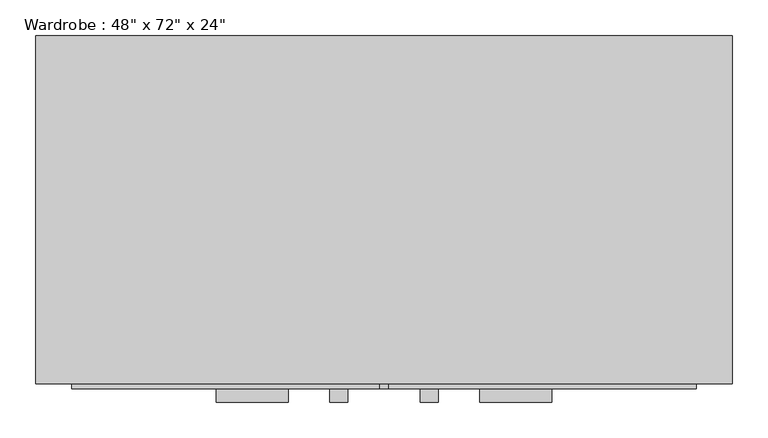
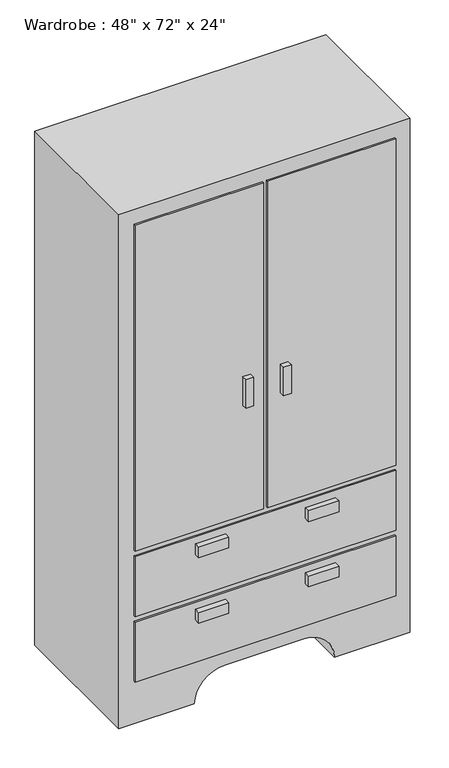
"""IFC4 building model written with IfcOpenShell, lengths in millimetres: furniture geometry."""

from ifc_helpers import new_model, si_unit, point, frame, frame_2d, origin, place, context, project, spatial, polyline, circle_curve, trimmed, segment, composite_curve, outline, extrude, source, transform, mapped, element, save


def furniture_dc80c863(model_context):
    return source(origin(), model_context, "Body", "SweptSolid", [
        extrude(outline(composite_curve([segment(polyline([(0.0, 220.8067402), (1828.8, 220.8067402), (1828.8, -759.1932598), (0.0, -759.1932598), (0.0, -505.1932598)]), True, "CONTINUOUS"), segment(trimmed(circle_curve(frame_2d((0.0, -403.5932598)), 101.6), [point((0.0, -505.1932598))], [point((101.6, -403.5932598))], True, "CARTESIAN"), True, "CONTINUOUS"), segment(polyline([(101.6, -403.5932598), (101.6, -134.7932598)]), True, "CONTINUOUS"), segment(trimmed(circle_curve(frame_2d((0.0, -134.7932598)), 101.6), [point((101.6, -134.7932598))], [point((0.0, -33.1932598))], True, "CARTESIAN"), True, "CONTINUOUS"), segment(polyline([(0.0, -33.1932598), (0.0, 220.8067402)]), True, "CONTINUOUS")], self_intersect=False)), frame((0.0, -828.7388096, 0.0), z_axis=(0.0, 1.0, 0.0), x_axis=(0.0, 0.0, 1.0)), (0.0, 0.0, 1.0), 490.0),
        extrude(outline(polyline([(-319.9932598, -854.1388096), (-345.3932598, -854.1388096), (-345.3932598, -835.0888096), (-319.9932598, -835.0888096), (-319.9932598, -854.1388096)])), frame((0.0, 0.0, 1010.5571429), z_axis=(0.0, 0.0, 1.0), x_axis=(1.0, 0.0, 0.0)), (0.0, 0.0, 1.0), 101.6),
        extrude(outline(polyline([(-192.9932598, -854.1388096), (-218.3932598, -854.1388096), (-218.3932598, -835.0888096), (-192.9932598, -835.0888096), (-192.9932598, -854.1388096)])), frame((0.0, 0.0, 1010.5571429), z_axis=(0.0, 0.0, 1.0), x_axis=(1.0, 0.0, 0.0)), (0.0, 0.0, 1.0), 101.6),
        extrude(outline(polyline([(-403.5932598, -854.1388096), (-505.1932598, -854.1388096), (-505.1932598, -835.0888096), (-403.5932598, -835.0888096), (-403.5932598, -854.1388096)])), frame((0.0, 0.0, 534.3071429), z_axis=(0.0, 0.0, 1.0), x_axis=(1.0, 0.0, 0.0)), (0.0, 0.0, 1.0), 38.1),
        extrude(outline(polyline([(-33.1932598, -854.1388096), (-134.7932598, -854.1388096), (-134.7932598, -835.0888096), (-33.1932598, -835.0888096), (-33.1932598, -854.1388096)])), frame((0.0, 0.0, 534.3071429), z_axis=(0.0, 0.0, 1.0), x_axis=(1.0, 0.0, 0.0)), (0.0, 0.0, 1.0), 38.1),
        extrude(outline(polyline([(-33.1932598, -854.1388096), (-134.7932598, -854.1388096), (-134.7932598, -835.0888096), (-33.1932598, -835.0888096), (-33.1932598, -854.1388096)])), frame((0.0, 0.0, 302.0785714), z_axis=(0.0, 0.0, 1.0), x_axis=(1.0, 0.0, 0.0)), (0.0, 0.0, 1.0), 38.1),
        extrude(outline(polyline([(-403.5932598, -854.1388096), (-505.1932598, -854.1388096), (-505.1932598, -835.0888096), (-403.5932598, -835.0888096), (-403.5932598, -854.1388096)])), frame((0.0, 0.0, 302.0785714), z_axis=(0.0, 0.0, 1.0), x_axis=(1.0, 0.0, 0.0)), (0.0, 0.0, 1.0), 38.1),
        extrude(outline(polyline([(170.0067402, -835.0888096), (-708.3932598, -835.0888096), (-708.3932598, -828.7388096), (170.0067402, -828.7388096), (170.0067402, -835.0888096)])), frame((0.0, 0.0, 384.6285714), z_axis=(0.0, 0.0, 1.0), x_axis=(1.0, 0.0, 0.0)), (0.0, 0.0, 1.0), 213.1785714),
        extrude(outline(polyline([(170.0067402, -835.0888096), (-708.3932598, -835.0888096), (-708.3932598, -828.7388096), (170.0067402, -828.7388096), (170.0067402, -835.0888096)])), frame((0.0, 0.0, 152.4), z_axis=(0.0, 0.0, 1.0), x_axis=(1.0, 0.0, 0.0)), (0.0, 0.0, 1.0), 213.1785714),
        extrude(outline(polyline([(-275.5432598, -835.0888096), (-708.3932598, -835.0888096), (-708.3932598, -828.7388096), (-275.5432598, -828.7388096), (-275.5432598, -835.0888096)])), frame((0.0, 0.0, 616.8571429), z_axis=(0.0, 0.0, 1.0), x_axis=(1.0, 0.0, 0.0)), (0.0, 0.0, 1.0), 1161.1428571),
        extrude(outline(polyline([(170.0067402, -835.0888096), (-262.8432598, -835.0888096), (-262.8432598, -828.7388096), (170.0067402, -828.7388096), (170.0067402, -835.0888096)])), frame((0.0, 0.0, 616.8571429), z_axis=(0.0, 0.0, 1.0), x_axis=(1.0, 0.0, 0.0)), (0.0, 0.0, 1.0), 1161.1428571),
    ])


if __name__ == "__main__":
    model = new_model("IFC4")
    model_context = context("Model", 3, world=origin())
    ifc_project = project(units=[si_unit("LENGTHUNIT", "METRE", prefix="MILLI")], contexts=[model_context])
    site = spatial("IfcSite", under=ifc_project)
    building = spatial("IfcBuilding", under=site)
    placement = place(None, origin())
    furniture_shape = furniture_dc80c863(model_context)
    element("IfcFurniture", 1, ObjectType="Wardrobe : 48\" x 72\" x 24\"", at=placement, inside=building, context=model_context, shape_type="MappedRepresentation", body=[
        mapped(furniture_shape, transform((0.0, 0.0, 0.0), x_axis=(1.0, 0.0, 0.0), y_axis=(0.0, 1.0, 0.0), z_axis=(0.0, 0.0, 1.0))),
    ])
    save(model, "model.ifc")
